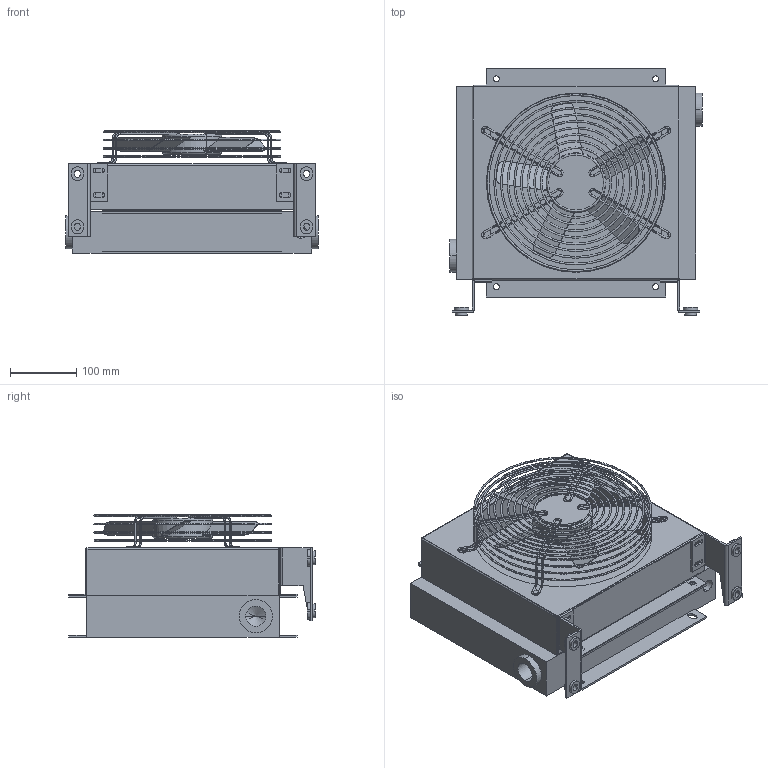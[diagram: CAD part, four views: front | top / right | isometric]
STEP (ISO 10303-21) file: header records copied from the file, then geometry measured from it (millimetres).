
FILE_DESCRIPTION (( 'STEP AP214' ), '1' );
FILE_NAME ('WHE 2024 220V.STEP', '2016-01-29T07:41:29', ( '' ), ( '' ), 'SwSTEP 2.0', 'SolidWorks 2016', '' );
FILE_SCHEMA (( 'AUTOMOTIVE_DESIGN' ));
Length unit declared in the file: millimetre
Products named in the file (19): WHE2024 200V FAN SEPETI_170; SOGUTUCU GOVDE; WHE2024 200V FAN SEPETI_130; FAN; WHE2024 200V FAN SEPETI_90; WHE2024 22V FAN SEPET; WHE2024 200V FAN SEPETI_110; WHE2024 200V FAN SEPETI_190; WHE2024 200V FAN SEPETI_210; WHE2024 FAN SACI 12V-24V_SAC 2; WHE2024 200V FAN SEPETI_250; WHE2024 200V FAN SEPETI_230; AYAK CONTASI; WHE2024 200V FAN SEPETI_270; WHE 2024 220V; WHE2024 200V FAN SEPETI_150; WHE2024 AYAK 24V-12V; MIROR AYAK; WHE 2024 FAN SEPETI AYAGI
Assembly tree (27 placements, depth 3):
  WHE 2024 220V
    SOGUTUCU GOVDE
    WHE2024 FAN SACI 12V-24V_SAC 2
    MIROR AYAK
    WHE2024 AYAK 24V-12V
    AYAK CONTASI  x4
    WHE2024 22V FAN SEPET
      WHE2024 200V FAN SEPETI_90
      WHE2024 200V FAN SEPETI_110
      WHE2024 200V FAN SEPETI_130
      WHE2024 200V FAN SEPETI_150
      WHE2024 200V FAN SEPETI_170
      WHE2024 200V FAN SEPETI_190
      WHE2024 200V FAN SEPETI_210
      WHE2024 200V FAN SEPETI_230
      WHE2024 200V FAN SEPETI_270  x4
      WHE2024 200V FAN SEPETI_250
      WHE 2024 FAN SEPETI AYAGI  x4
    FAN
Bounding box: 380 x 371.7 x 184 mm (x, y, z)
Volume: 7126003 mm3; surface area: 794758.2 mm2
Topology: 26 solids, 26 shells, 562 faces, 1419 edges, 888 vertices
Faces by surface type: plane 237, cylinder 197, bspline 120, cone 8
Entity records: 17632 total; most frequent: CARTESIAN_POINT 3225, DIRECTION 2007, ORIENTED_EDGE 1958, EDGE_CURVE 979, AXIS2_PLACEMENT_3D 706, VERTEX_POINT 624, VECTOR 595, LINE 595
